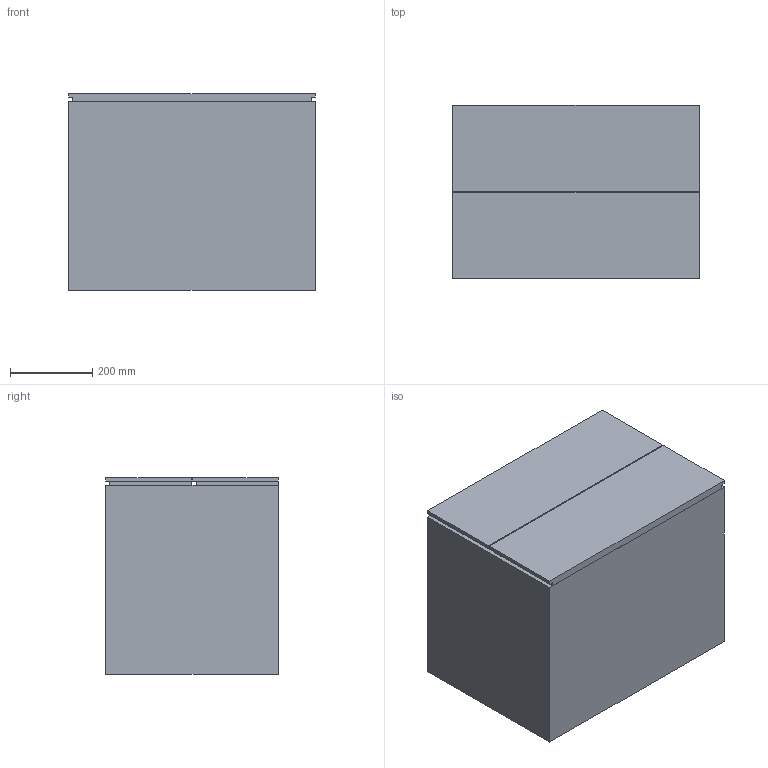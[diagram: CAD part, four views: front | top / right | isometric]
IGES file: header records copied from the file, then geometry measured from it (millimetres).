
Start section: SolidWorks IGES file using NURBS representation for surfaces
Global section: file name: G:\VICCARBE\PRODUCTOS\20-DO IT\04-MODELADOS (PLANOS)\SOLIDWORKS\Contenedores\IGES\VICCARBE_DO22.IGS; native system: SolidWorks 2009; preprocessor: SolidWorks 2009; author: RUBEN; date: 111102.121211; units: millimetre
Bounding box: 600 x 420 x 479 mm (x, y, z)
Surface area: 2831484 mm2 (no closed solid volume)
Topology: 0 solids, 0 shells, 31 faces, 144 edges, 144 vertices
Faces by surface type: bspline 31
